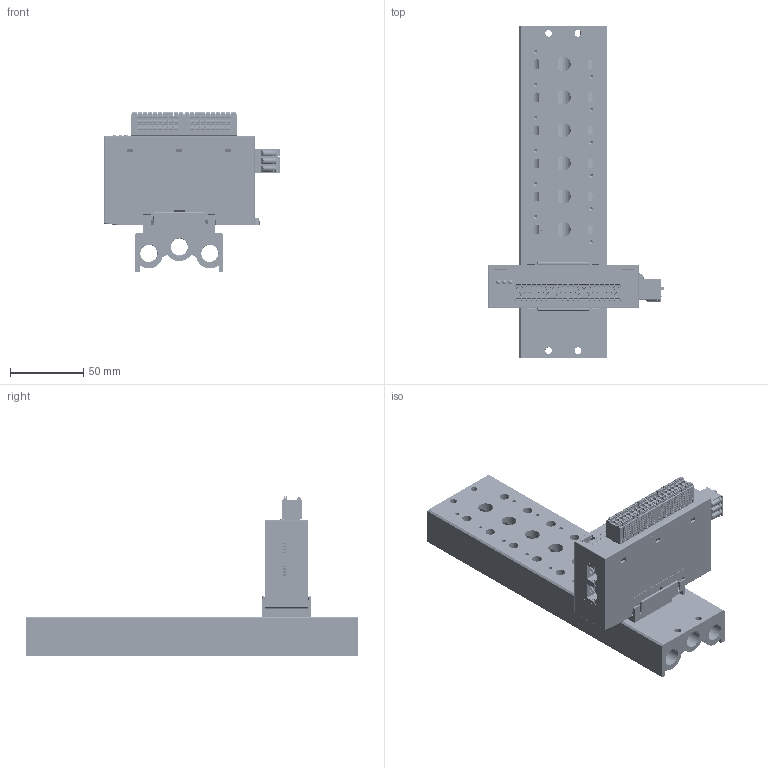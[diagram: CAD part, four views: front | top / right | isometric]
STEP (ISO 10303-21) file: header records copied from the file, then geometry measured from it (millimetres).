
FILE_DESCRIPTION(/* description */ (''),/* implementation_level */ '2;1');
FILE_NAME(/* name */ '',/* time_stamp */ '2025-10-09T16:49:02+08:00',/* author */ (''),/* organization */ (''),/* preprocessor_version */ 'ST-DEVELOPER v14',/* originating_system */ 'SIEMENS PLM Software NX 8.0',/* authorisation */ '');
FILE_SCHEMA (('AP203_CONFIGURATION_CONTROLLED_3D_DESIGN_OF_MECHANICAL_PARTS_AND_ASSEMBLIES_MIM_LF { 1 0 10303 403 2 1 2}'));
Products named in the file (1): DELL3E5857E9udq9
Bounding box: 119.8 x 226 x 108.48 mm (x, y, z)
Volume: 406050.3 mm3; surface area: 129398.4 mm2
Topology: 2 solids, 227 shells, 9727 faces, 25740 edges, 16752 vertices
Faces by surface type: plane 6388, cylinder 2265, bspline 340, torus 336, cone 213, sphere 95, extrusion 90
Full cylindrical faces by diameter (mm): 0.18 x2, 2.5 x17, 3.05 x40, 3.3 x3, 3.5 x4, 4 x3, 4.5 x4, 6 x4, 6.5 x12, 10 x6, 11.5 x5, 11.8 x6
Entity records: 320599 total; most frequent: CARTESIAN_POINT 81133, ORIENTED_EDGE 50448, DIRECTION 47935, EDGE_CURVE 25224, VECTOR 18065, LINE 17975, VERTEX_POINT 16619, AXIS2_PLACEMENT_3D 14935
